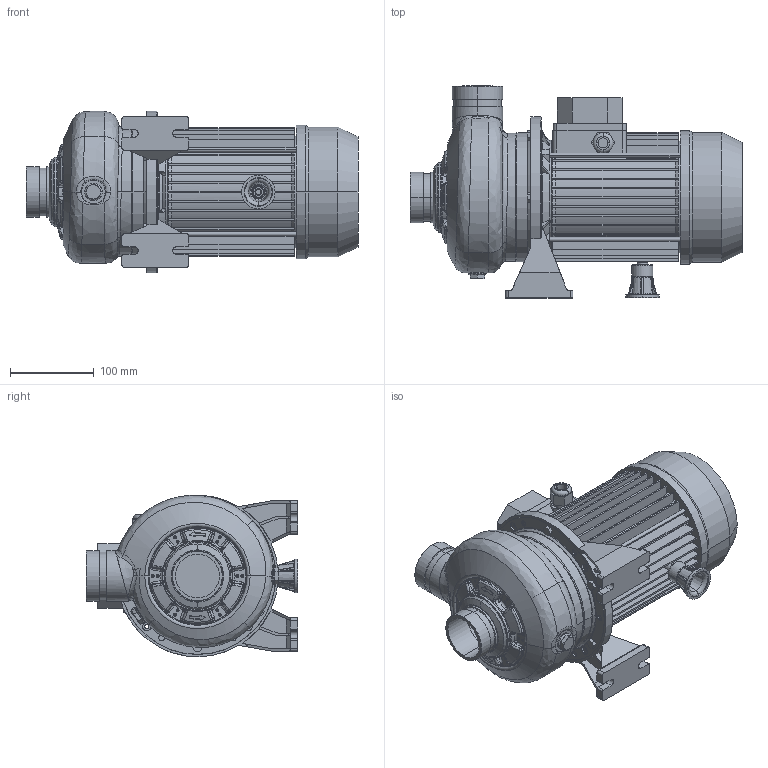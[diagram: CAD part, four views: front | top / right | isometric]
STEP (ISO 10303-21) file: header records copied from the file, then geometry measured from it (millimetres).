
FILE_DESCRIPTION((''),'2;1');
FILE_NAME('DWC_V_300_1_5_IE3_ASM','2016-10-26T',('rosa'),('"Ebara Pumps Europe +39.444.706811"'),'PRO/ENGINEER BY PARAMETRIC TECHNOLOGY CORPORATION, 2012130','PRO/ENGINEER BY PARAMETRIC TECHNOLOGY CORPORATION, 2012130','');
FILE_SCHEMA(('AUTOMOTIVE_DESIGN { 1 0 10303 214 1 1 1 1 }'));
Length unit declared in the file: millimetre
Products named in the file (12): MEC_80X130_IE3; 80596; 251420991; 10054; 76006; 40032; 62074; 10188; 20104_ASM; 72011; 72028; DWC_V_300_1_5_IE3_ASM
Assembly tree (13 placements, depth 3):
  DWC_V_300_1_5_IE3_ASM
    MEC_80X130_IE3
    80596
    20104_ASM
      251420991
      10054
      76006  x2
      40032  x2
      62074
      10188
    72011
    72028
Bounding box: 396.5 x 253 x 192.93 mm (x, y, z)
Volume: 2823753.4 mm3; surface area: 698777.1 mm2
Topology: 12 solids, 12 shells, 1674 faces, 4048 edges, 2452 vertices
Faces by surface type: plane 509, bspline 434, cylinder 310, torus 210, cone 165, sphere 42, extrusion 4
Entity records: 89479 total; most frequent: CARTESIAN_POINT 39744, ORIENTED_EDGE 7914, DIRECTION 6879, EDGE_CURVE 3957, PRESENTATION_STYLE_ASSIGNMENT 3910, STYLED_ITEM 3910, CURVE_STYLE 3901, AXIS2_PLACEMENT_3D 2857
